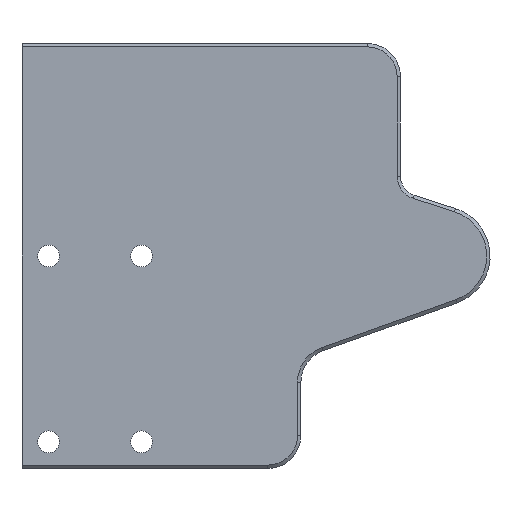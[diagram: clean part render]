
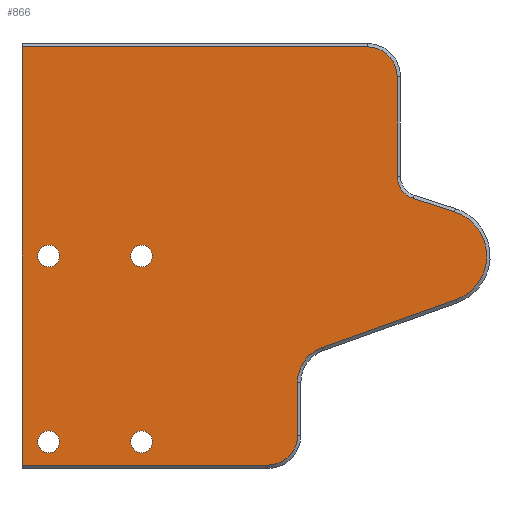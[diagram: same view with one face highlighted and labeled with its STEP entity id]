
A CAD part, left-side view. The second image highlights one B-rep face of the part: STEP entity #866.
In plain terms, the highlighted planar face has unit normal (-1, 0, 0).
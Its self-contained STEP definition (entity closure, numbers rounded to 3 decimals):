
#34=FACE_BOUND('',#163,.T.);
#35=FACE_BOUND('',#164,.T.);
#36=FACE_BOUND('',#165,.T.);
#37=FACE_BOUND('',#166,.T.);
#50=CIRCLE('',#931,4.5);
#52=CIRCLE('',#935,5.5);
#54=CIRCLE('',#939,7.);
#56=CIRCLE('',#943,3.5);
#58=CIRCLE('',#947,4.5);
#60=CIRCLE('',#951,1.65);
#61=CIRCLE('',#952,1.65);
#62=CIRCLE('',#953,1.65);
#63=CIRCLE('',#954,1.65);
#111=FACE_OUTER_BOUND('',#162,.T.);
#162=EDGE_LOOP('',(#625,#626,#627,#628,#629,#630,#631,#632,#633,#634,#635,
#636));
#163=EDGE_LOOP('',(#637));
#164=EDGE_LOOP('',(#638));
#165=EDGE_LOOP('',(#639));
#166=EDGE_LOOP('',(#640));
#221=LINE('',#1305,#301);
#224=LINE('',#1316,#304);
#228=LINE('',#1328,#308);
#232=LINE('',#1340,#312);
#236=LINE('',#1352,#316);
#240=LINE('',#1364,#320);
#242=LINE('',#1367,#322);
#301=VECTOR('',#1031,10.);
#304=VECTOR('',#1042,10.);
#308=VECTOR('',#1054,10.);
#312=VECTOR('',#1066,10.);
#316=VECTOR('',#1078,10.);
#320=VECTOR('',#1090,10.);
#322=VECTOR('',#1094,10.);
#378=VERTEX_POINT('',#1298);
#381=VERTEX_POINT('',#1303);
#383=VERTEX_POINT('',#1308);
#385=VERTEX_POINT('',#1314);
#387=VERTEX_POINT('',#1320);
#389=VERTEX_POINT('',#1326);
#391=VERTEX_POINT('',#1332);
#393=VERTEX_POINT('',#1338);
#395=VERTEX_POINT('',#1344);
#397=VERTEX_POINT('',#1350);
#399=VERTEX_POINT('',#1356);
#401=VERTEX_POINT('',#1362);
#402=VERTEX_POINT('',#1368);
#403=VERTEX_POINT('',#1370);
#404=VERTEX_POINT('',#1372);
#405=VERTEX_POINT('',#1374);
#460=EDGE_CURVE('',#381,#378,#221,.T.);
#462=EDGE_CURVE('',#383,#381,#50,.T.);
#465=EDGE_CURVE('',#385,#383,#224,.T.);
#468=EDGE_CURVE('',#387,#385,#52,.T.);
#471=EDGE_CURVE('',#389,#387,#228,.T.);
#474=EDGE_CURVE('',#391,#389,#54,.T.);
#477=EDGE_CURVE('',#393,#391,#232,.T.);
#480=EDGE_CURVE('',#395,#393,#56,.T.);
#483=EDGE_CURVE('',#397,#395,#236,.T.);
#486=EDGE_CURVE('',#399,#397,#58,.T.);
#489=EDGE_CURVE('',#401,#399,#240,.T.);
#491=EDGE_CURVE('',#401,#378,#242,.T.);
#492=EDGE_CURVE('',#402,#402,#60,.T.);
#493=EDGE_CURVE('',#403,#403,#61,.T.);
#494=EDGE_CURVE('',#404,#404,#62,.T.);
#495=EDGE_CURVE('',#405,#405,#63,.T.);
#625=ORIENTED_EDGE('',*,*,#460,.F.);
#626=ORIENTED_EDGE('',*,*,#462,.F.);
#627=ORIENTED_EDGE('',*,*,#465,.F.);
#628=ORIENTED_EDGE('',*,*,#468,.F.);
#629=ORIENTED_EDGE('',*,*,#471,.F.);
#630=ORIENTED_EDGE('',*,*,#474,.F.);
#631=ORIENTED_EDGE('',*,*,#477,.F.);
#632=ORIENTED_EDGE('',*,*,#480,.F.);
#633=ORIENTED_EDGE('',*,*,#483,.F.);
#634=ORIENTED_EDGE('',*,*,#486,.F.);
#635=ORIENTED_EDGE('',*,*,#489,.F.);
#636=ORIENTED_EDGE('',*,*,#491,.T.);
#637=ORIENTED_EDGE('',*,*,#492,.T.);
#638=ORIENTED_EDGE('',*,*,#493,.T.);
#639=ORIENTED_EDGE('',*,*,#494,.T.);
#640=ORIENTED_EDGE('',*,*,#495,.T.);
#835=PLANE('',#950);
#866=ADVANCED_FACE('',(#111,#34,#35,#36,#37),#835,.F.);
#931=AXIS2_PLACEMENT_3D('',#1310,#1035,#1036);
#935=AXIS2_PLACEMENT_3D('',#1322,#1047,#1048);
#939=AXIS2_PLACEMENT_3D('',#1334,#1059,#1060);
#943=AXIS2_PLACEMENT_3D('',#1346,#1071,#1072);
#947=AXIS2_PLACEMENT_3D('',#1358,#1083,#1084);
#950=AXIS2_PLACEMENT_3D('',#1366,#1092,#1093);
#951=AXIS2_PLACEMENT_3D('',#1369,#1095,#1096);
#952=AXIS2_PLACEMENT_3D('',#1371,#1097,#1098);
#953=AXIS2_PLACEMENT_3D('',#1373,#1099,#1100);
#954=AXIS2_PLACEMENT_3D('',#1375,#1101,#1102);
#1031=DIRECTION('',(0.,1.,0.));
#1035=DIRECTION('center_axis',(1.,0.,0.));
#1036=DIRECTION('ref_axis',(0.,-1.,0.));
#1042=DIRECTION('',(0.,0.,-1.));
#1047=DIRECTION('center_axis',(-1.,0.,0.));
#1048=DIRECTION('ref_axis',(0.,1.,0.));
#1054=DIRECTION('',(0.,0.942,-0.337));
#1059=DIRECTION('center_axis',(1.,0.,0.));
#1060=DIRECTION('ref_axis',(0.,-1.,0.));
#1066=DIRECTION('',(0.,-0.952,-0.307));
#1071=DIRECTION('center_axis',(-1.,0.,0.));
#1072=DIRECTION('ref_axis',(0.,0.307,-0.952));
#1078=DIRECTION('',(0.,0.,-1.));
#1083=DIRECTION('center_axis',(1.,0.,0.));
#1084=DIRECTION('ref_axis',(0.,0.,1.));
#1090=DIRECTION('',(0.,-1.,0.));
#1092=DIRECTION('center_axis',(1.,0.,0.));
#1093=DIRECTION('ref_axis',(0.,0.,-1.));
#1094=DIRECTION('',(0.,0.,-1.));
#1095=DIRECTION('center_axis',(1.,0.,0.));
#1096=DIRECTION('ref_axis',(0.,-1.,0.));
#1097=DIRECTION('center_axis',(1.,0.,0.));
#1098=DIRECTION('ref_axis',(0.,-1.,0.));
#1099=DIRECTION('center_axis',(1.,0.,0.));
#1100=DIRECTION('ref_axis',(0.,-1.,0.));
#1101=DIRECTION('center_axis',(1.,0.,0.));
#1102=DIRECTION('ref_axis',(0.,-1.,0.));
#1298=CARTESIAN_POINT('',(-28.,0.,-31.5));
#1303=CARTESIAN_POINT('',(-28.,-37.,-31.5));
#1305=CARTESIAN_POINT('',(-28.,-36.125,-31.5));
#1308=CARTESIAN_POINT('',(-28.,-41.5,-27.));
#1310=CARTESIAN_POINT('Origin',(-28.,-37.,-27.));
#1314=CARTESIAN_POINT('',(-28.,-41.5,-19.));
#1316=CARTESIAN_POINT('',(-28.,-41.5,-9.5));
#1320=CARTESIAN_POINT('',(-28.,-45.147,-13.821));
#1322=CARTESIAN_POINT('Origin',(-28.,-47.,-19.));
#1326=CARTESIAN_POINT('',(-28.,-65.358,-6.591));
#1328=CARTESIAN_POINT('',(-28.,-53.057,-10.992));
#1332=CARTESIAN_POINT('',(-28.,-65.149,6.662));
#1334=CARTESIAN_POINT('Origin',(-28.,-63.,0.));
#1338=CARTESIAN_POINT('',(-28.,-58.926,8.669));
#1340=CARTESIAN_POINT('',(-28.,-49.469,11.719));
#1344=CARTESIAN_POINT('',(-28.,-56.5,12.));
#1346=CARTESIAN_POINT('Origin',(-28.,-60.,12.));
#1350=CARTESIAN_POINT('',(-28.,-56.5,27.));
#1352=CARTESIAN_POINT('',(-28.,-56.5,13.5));
#1356=CARTESIAN_POINT('',(-28.,-52.,31.5));
#1358=CARTESIAN_POINT('Origin',(-28.,-52.,27.));
#1362=CARTESIAN_POINT('',(-28.,0.,31.5));
#1364=CARTESIAN_POINT('',(-28.,-17.625,31.5));
#1366=CARTESIAN_POINT('Origin',(-28.,-35.25,0.));
#1367=CARTESIAN_POINT('',(-28.,0.,-16.));
#1368=CARTESIAN_POINT('',(-28.,-16.35,0.));
#1369=CARTESIAN_POINT('Origin',(-28.,-18.,0.));
#1370=CARTESIAN_POINT('',(-28.,-2.35,0.));
#1371=CARTESIAN_POINT('Origin',(-28.,-4.,0.));
#1372=CARTESIAN_POINT('',(-28.,-2.35,-28.));
#1373=CARTESIAN_POINT('Origin',(-28.,-4.,-28.));
#1374=CARTESIAN_POINT('',(-28.,-16.35,-28.));
#1375=CARTESIAN_POINT('Origin',(-28.,-18.,-28.));
